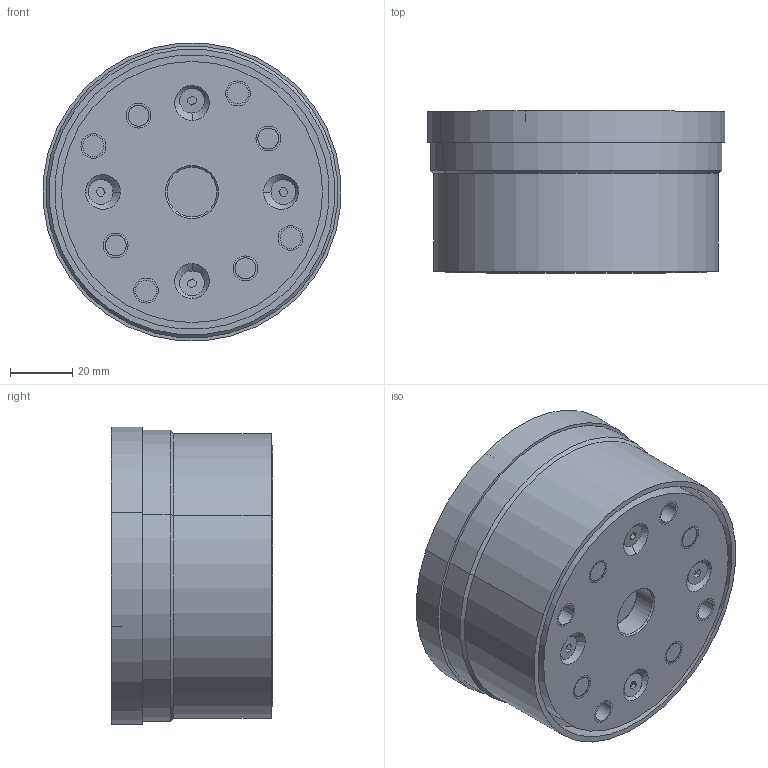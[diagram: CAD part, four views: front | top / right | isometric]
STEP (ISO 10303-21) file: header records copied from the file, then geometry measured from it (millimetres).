
FILE_DESCRIPTION((''),'2;1');
FILE_NAME('BS6-100-084','2018-02-27T',('CSW'),(''),'CREO PARAMETRIC BY PTC INC, 2016260','CREO PARAMETRIC BY PTC INC, 2016260','');
FILE_SCHEMA(('AUTOMOTIVE_DESIGN { 1 0 10303 214 1 1 1 1 }'));
Length unit declared in the file: millimetre
Products named in the file (1): BS6-100-084
Bounding box: 95.63 x 52 x 95.63 mm (x, y, z)
Volume: 342164.1 mm3; surface area: 43621.2 mm2
Topology: 1 solids, 53 shells, 525 faces, 1176 edges, 738 vertices
Faces by surface type: cylinder 218, plane 211, cone 80, torus 16
Entity records: 14943 total; most frequent: CARTESIAN_POINT 2785, DIRECTION 2742, ORIENTED_EDGE 2192, EDGE_CURVE 1160, AXIS2_PLACEMENT_3D 1088, VERTEX_POINT 738, EDGE_LOOP 610, VECTOR 566
